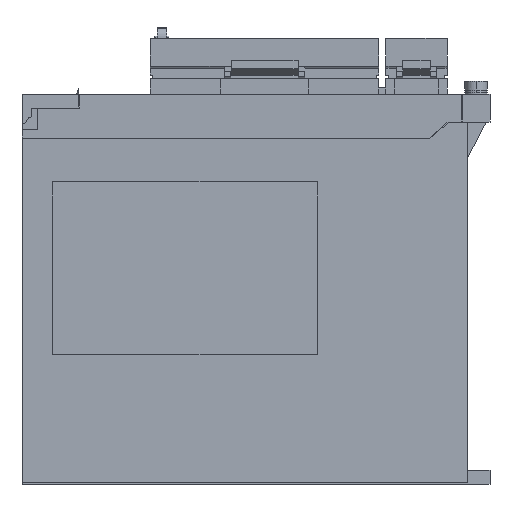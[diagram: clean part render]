
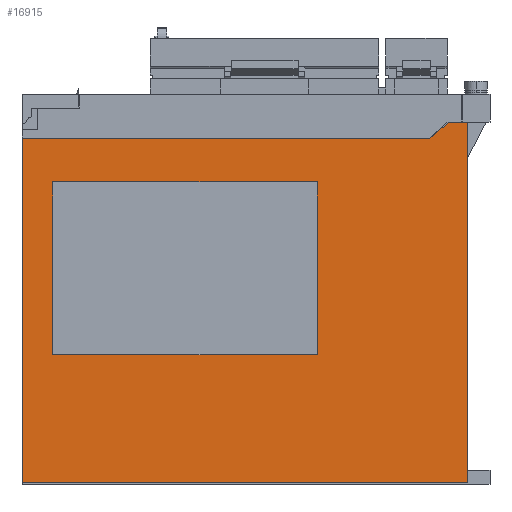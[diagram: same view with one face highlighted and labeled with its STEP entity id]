
A CAD part, left-side view. The second image highlights one B-rep face of the part: STEP entity #16915.
In plain terms, the highlighted planar face has unit normal (-1, 0, 0).
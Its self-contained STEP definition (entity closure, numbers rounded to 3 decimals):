
#14269 = VERTEX_POINT ( 'NONE', #42381 ) ;
#14271 = EDGE_CURVE ( 'NONE', #14269, #14272, #42380, .T. ) ;
#14272 = VERTEX_POINT ( 'NONE', #42376 ) ;
#14754 = VERTEX_POINT ( 'NONE', #43166 ) ;
#14794 = VERTEX_POINT ( 'NONE', #43288 ) ;
#14796 = EDGE_CURVE ( 'NONE', #14754, #14794, #43287, .T. ) ;
#16898 = EDGE_CURVE ( 'NONE', #16925, #16923, #46973, .T. ) ;
#16899 = ORIENTED_EDGE ( 'NONE', *, *, #16900, .F. ) ;
#16900 = EDGE_CURVE ( 'NONE', #16920, #16925, #46969, .T. ) ;
#16901 = EDGE_LOOP ( 'NONE', ( #16902, #16903, #16906, #16909, #16966, #16967 ) ) ;
#16902 = ORIENTED_EDGE ( 'NONE', *, *, #14271, .F. ) ;
#16903 = ORIENTED_EDGE ( 'NONE', *, *, #16904, .F. ) ;
#16904 = EDGE_CURVE ( 'NONE', #16905, #14269, #46964, .T. ) ;
#16905 = VERTEX_POINT ( 'NONE', #46960 ) ;
#16906 = ORIENTED_EDGE ( 'NONE', *, *, #16907, .F. ) ;
#16907 = EDGE_CURVE ( 'NONE', #16908, #16905, #46958, .T. ) ;
#16908 = VERTEX_POINT ( 'NONE', #46954 ) ;
#16909 = ORIENTED_EDGE ( 'NONE', *, *, #16910, .F. ) ;
#16910 = EDGE_CURVE ( 'NONE', #14754, #16908, #46951, .T. ) ;
#16915 = ADVANCED_FACE ( 'NONE', ( #47012, #47011 ), #47010, .F. ) ;
#16916 = EDGE_LOOP ( 'NONE', ( #16917, #16921, #16924, #16899 ) ) ;
#16917 = ORIENTED_EDGE ( 'NONE', *, *, #16918, .F. ) ;
#16918 = EDGE_CURVE ( 'NONE', #16919, #16920, #47005, .T. ) ;
#16919 = VERTEX_POINT ( 'NONE', #47001 ) ;
#16920 = VERTEX_POINT ( 'NONE', #47000 ) ;
#16921 = ORIENTED_EDGE ( 'NONE', *, *, #16922, .F. ) ;
#16922 = EDGE_CURVE ( 'NONE', #16923, #16919, #46999, .T. ) ;
#16923 = VERTEX_POINT ( 'NONE', #46995 ) ;
#16924 = ORIENTED_EDGE ( 'NONE', *, *, #16898, .F. ) ;
#16925 = VERTEX_POINT ( 'NONE', #46994 ) ;
#16966 = ORIENTED_EDGE ( 'NONE', *, *, #14796, .T. ) ;
#16967 = ORIENTED_EDGE ( 'NONE', *, *, #16968, .T. ) ;
#16968 = EDGE_CURVE ( 'NONE', #14794, #14272, #47069, .T. ) ;
#42376 = CARTESIAN_POINT ( 'NONE',  ( -35., -155., 0.5 ) ) ;
#42377 = DIRECTION ( 'NONE',  ( 0., 0., -1. ) ) ;
#42378 = VECTOR ( 'NONE', #42377, 1000. ) ;
#42379 = CARTESIAN_POINT ( 'NONE',  ( -35., -155., 288.924 ) ) ;
#42380 = LINE ( 'NONE', #42379, #42378 ) ;
#42381 = CARTESIAN_POINT ( 'NONE',  ( -35., -155., 129.8 ) ) ;
#43166 = CARTESIAN_POINT ( 'NONE',  ( -35., 5., 124. ) ) ;
#43284 = DIRECTION ( 'NONE',  ( 0., 0., -1. ) ) ;
#43285 = VECTOR ( 'NONE', #43284, 1000. ) ;
#43286 = CARTESIAN_POINT ( 'NONE',  ( -35., 5., 288.924 ) ) ;
#43287 = LINE ( 'NONE', #43286, #43285 ) ;
#43288 = CARTESIAN_POINT ( 'NONE',  ( -35., 5., 0.5 ) ) ;
#45378 = DIRECTION ( 'NONE',  ( 0., -1., 0. ) ) ;
#46949 = VECTOR ( 'NONE', #45378, 1000. ) ;
#46950 = CARTESIAN_POINT ( 'NONE',  ( -35., 13.365, 124. ) ) ;
#46951 = LINE ( 'NONE', #46950, #46949 ) ;
#46954 = CARTESIAN_POINT ( 'NONE',  ( -35., -141.328, 124. ) ) ;
#46955 = DIRECTION ( 'NONE',  ( 0., -0.755, 0.656 ) ) ;
#46956 = VECTOR ( 'NONE', #46955, 1000. ) ;
#46957 = CARTESIAN_POINT ( 'NONE',  ( -35., -141.328, 124. ) ) ;
#46958 = LINE ( 'NONE', #46957, #46956 ) ;
#46960 = CARTESIAN_POINT ( 'NONE',  ( -35., -148., 129.8 ) ) ;
#46961 = DIRECTION ( 'NONE',  ( 0., -1., 0. ) ) ;
#46962 = VECTOR ( 'NONE', #46961, 1000. ) ;
#46963 = CARTESIAN_POINT ( 'NONE',  ( -35., -153., 129.8 ) ) ;
#46964 = LINE ( 'NONE', #46963, #46962 ) ;
#46966 = DIRECTION ( 'NONE',  ( 0., 1., 0. ) ) ;
#46967 = VECTOR ( 'NONE', #46966, 1000. ) ;
#46968 = CARTESIAN_POINT ( 'NONE',  ( -35., -6., 108.5 ) ) ;
#46969 = LINE ( 'NONE', #46968, #46967 ) ;
#46970 = DIRECTION ( 'NONE',  ( 0., 0., -1. ) ) ;
#46971 = VECTOR ( 'NONE', #46970, 1000. ) ;
#46972 = CARTESIAN_POINT ( 'NONE',  ( -35., -6., 46.5 ) ) ;
#46973 = LINE ( 'NONE', #46972, #46971 ) ;
#46994 = CARTESIAN_POINT ( 'NONE',  ( -35., -6., 108.5 ) ) ;
#46995 = CARTESIAN_POINT ( 'NONE',  ( -35., -6., 46.5 ) ) ;
#46996 = DIRECTION ( 'NONE',  ( 0., -1., 0. ) ) ;
#46997 = VECTOR ( 'NONE', #46996, 1000. ) ;
#46998 = CARTESIAN_POINT ( 'NONE',  ( -35., -6., 46.5 ) ) ;
#46999 = LINE ( 'NONE', #46998, #46997 ) ;
#47000 = CARTESIAN_POINT ( 'NONE',  ( -35., -101., 108.5 ) ) ;
#47001 = CARTESIAN_POINT ( 'NONE',  ( -35., -101., 46.5 ) ) ;
#47002 = DIRECTION ( 'NONE',  ( 0., 0., 1. ) ) ;
#47003 = VECTOR ( 'NONE', #47002, 1000. ) ;
#47004 = CARTESIAN_POINT ( 'NONE',  ( -35., -101., 46.5 ) ) ;
#47005 = LINE ( 'NONE', #47004, #47003 ) ;
#47006 = DIRECTION ( 'NONE',  ( 0., 0., -1. ) ) ;
#47007 = DIRECTION ( 'NONE',  ( 1., 0., 0. ) ) ;
#47008 = CARTESIAN_POINT ( 'NONE',  ( -35., 5., 288.924 ) ) ;
#47009 = AXIS2_PLACEMENT_3D ( 'NONE', #47008, #47007, #47006 ) ;
#47010 = PLANE ( 'NONE',  #47009 ) ;
#47011 = FACE_OUTER_BOUND ( 'NONE', #16901, .T. ) ;
#47012 = FACE_BOUND ( 'NONE', #16916, .T. ) ;
#47065 = DIRECTION ( 'NONE',  ( 0., -1., 0. ) ) ;
#47066 = VECTOR ( 'NONE', #47065, 1000. ) ;
#47068 = CARTESIAN_POINT ( 'NONE',  ( -35., 5., 0.5 ) ) ;
#47069 = LINE ( 'NONE', #47068, #47066 ) ;
